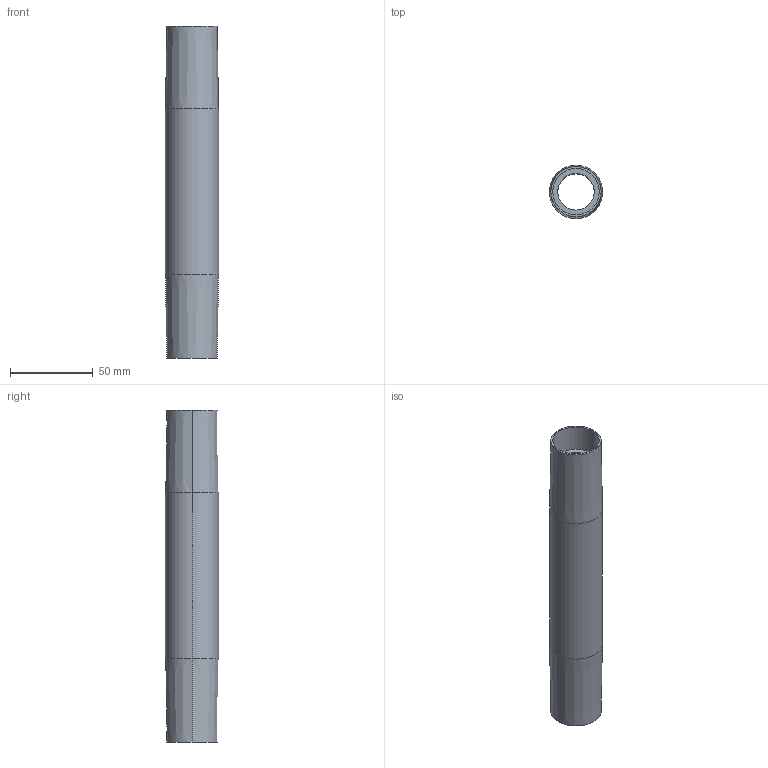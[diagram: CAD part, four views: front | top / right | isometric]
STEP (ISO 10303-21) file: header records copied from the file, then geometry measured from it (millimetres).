
FILE_DESCRIPTION (( 'STEP AP203' ), '1' );
FILE_NAME ('084.801.033.STEP', '2013-01-29T10:42:27', ( 'Alusic' ), ( 'Alusic' ), 'SwSTEP 2.0', 'SolidWorks 2011', '' );
FILE_SCHEMA (( 'CONFIG_CONTROL_DESIGN' ));
Length unit declared in the file: millimetre
Products named in the file (1): 084.801.033
Bounding box: 32 x 32 x 200 mm (x, y, z)
Volume: 72740.4 mm3; surface area: 34956.1 mm2
Topology: 1 solids, 1 shells, 16 faces, 32 edges, 20 vertices
Faces by surface type: cylinder 8, cone 4, plane 4
Entity records: 505 total; most frequent: DIRECTION 86, CARTESIAN_POINT 69, ORIENTED_EDGE 64, AXIS2_PLACEMENT_3D 37, EDGE_CURVE 32, EDGE_LOOP 20, VERTEX_POINT 20, CIRCLE 20
